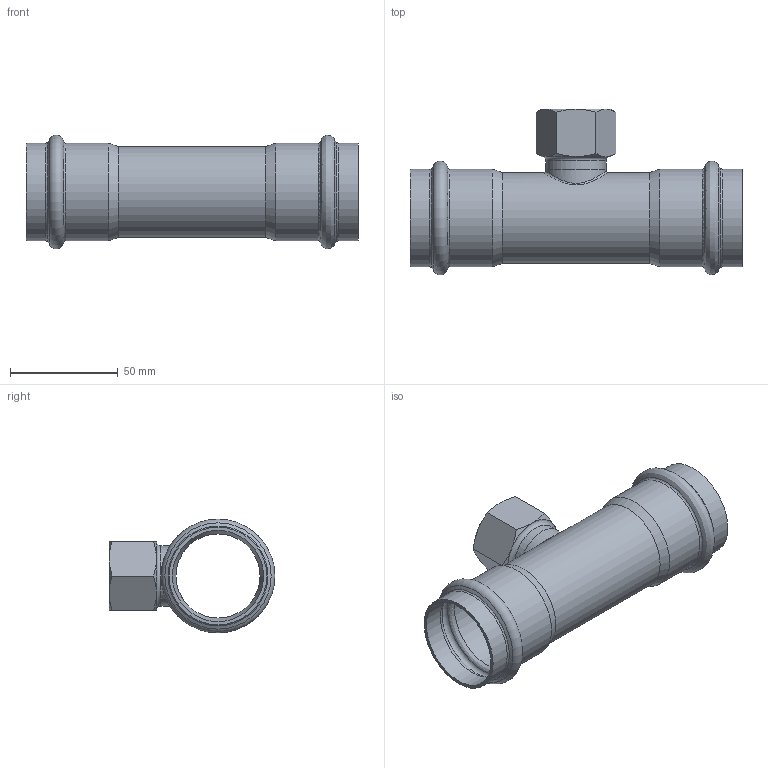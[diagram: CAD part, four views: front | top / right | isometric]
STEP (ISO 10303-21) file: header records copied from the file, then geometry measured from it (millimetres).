
FILE_DESCRIPTION((''),'2;1');
FILE_NAME('G:\Technics\CAD\Bauteile\042\69130G423442(3).stp','2008-03-03T13:35:55',('herberg'),(''),'Autodesk Inventor 2008','Autodesk Inventor 2008','');
FILE_SCHEMA(('AUTOMOTIVE_DESIGN { 1 0 10303 214 1 1 1 1 }'));
Length unit declared in the file: millimetre
Products named in the file (3): 69130G423442(3); LM_69130422842(1); IG2834(1)
Assembly tree (2 placements, depth 2):
  69130G423442(3)
    LM_69130422842(1)
    IG2834(1)
Bounding box: 154 x 76.89 x 52.79 mm (x, y, z)
Volume: 42425.2 mm3; surface area: 49450.5 mm2
Topology: 2 solids, 2 shells, 63 faces, 137 edges, 79 vertices
Faces by surface type: bspline 25, cone 17, plane 10, cylinder 9, torus 2
Full cylindrical faces by diameter (mm): 25 x1, 28 x2, 39 x1, 42 x1, 42.3 x2, 45.3 x2
Entity records: 3486 total; most frequent: CARTESIAN_POINT 2387, DIRECTION 200, ORIENTED_EDGE 178, EDGE_LOOP 108, AXIS2_PLACEMENT_3D 97, EDGE_CURVE 89, VERTEX_POINT 69, FACE_OUTER_BOUND 63
